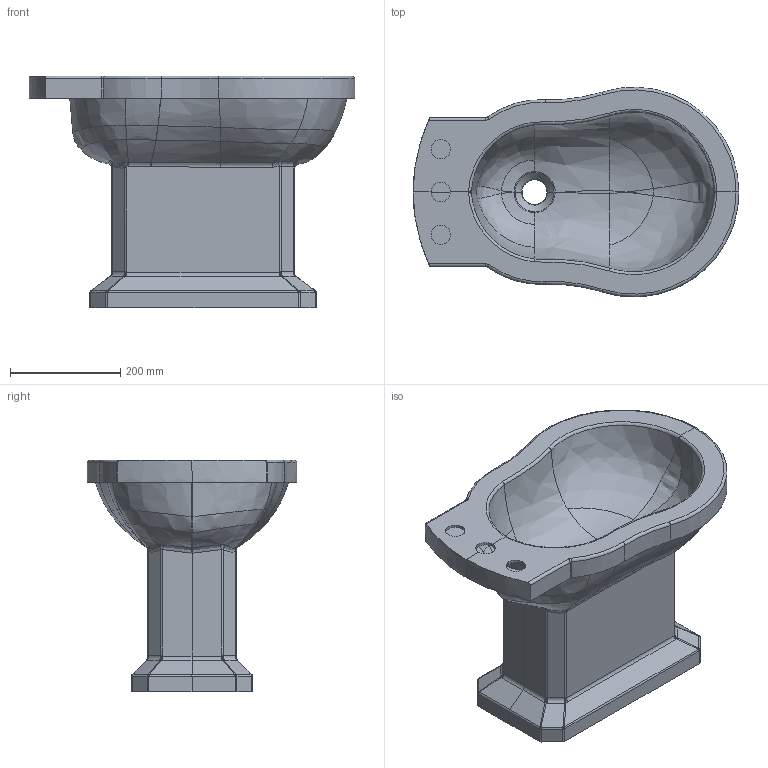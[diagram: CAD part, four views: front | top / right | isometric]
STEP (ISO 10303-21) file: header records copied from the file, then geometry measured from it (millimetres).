
FILE_DESCRIPTION(('CATIA V5 STEP Exchange'),'2;1');
FILE_NAME('C:\Users\Luca\Documents\CAD GALASSIA\3D IGS per sito web\ETHOS\8428_3D.stp','2022-03-24T09:58:00+00:00',('none'),('none'),'CATIA Version 5 Release 19 SP 5 (IN-10)','CATIA V5 STEP AP214','none');
FILE_SCHEMA(('AUTOMOTIVE_DESIGN { 1 0 10303 214 1 1 1 1 }'));
Length unit declared in the file: millimetre
Products named in the file (1): Part1
Bounding box: 590 x 379.77 x 420 mm (x, y, z)
Surface area: 841906.2 mm2 (no closed solid volume)
Topology: 0 solids, 1 shells, 273 faces, 645 edges, 347 vertices
Faces by surface type: bspline 139, cylinder 70, plane 38, sphere 16, torus 8, extrusion 2
Entity records: 25508 total; most frequent: CARTESIAN_POINT 20672, ORIENTED_EDGE 1208, EDGE_CURVE 622, DIRECTION 521, B_SPLINE_CURVE_WITH_KNOTS 365, VERTEX_POINT 347, EDGE_LOOP 275, ADVANCED_FACE 273
